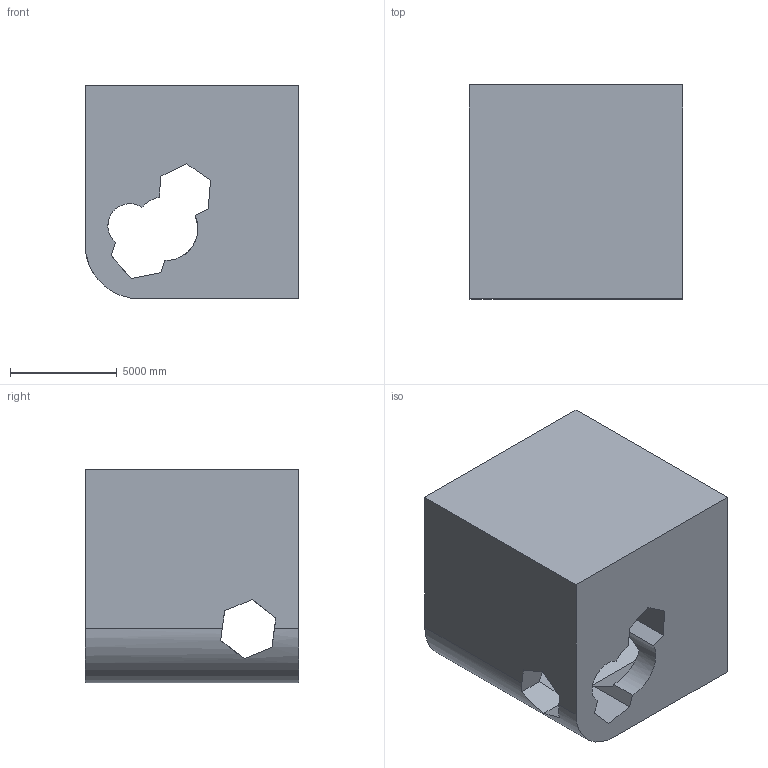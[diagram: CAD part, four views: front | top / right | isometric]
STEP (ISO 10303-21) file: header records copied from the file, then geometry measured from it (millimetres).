
FILE_DESCRIPTION (( 'STEP AP203' ), '1' );
FILE_NAME ('1599.STEP', '2022-08-18T16:03:48', ( 'user' ), ( '' ), 'SwSTEP 2.0', 'SolidWorks 2021', '' );
FILE_SCHEMA (( 'CONFIG_CONTROL_DESIGN' ));
Length unit declared in the file: centimetre
Products named in the file (1): 1599
Bounding box: 10000 x 10000 x 10000 mm (x, y, z)
Volume: 800204967854.1 mm3; surface area: 757006670.2 mm2
Topology: 1 solids, 1 shells, 34 faces, 105 edges, 70 vertices
Faces by surface type: plane 29, cylinder 5
Entity records: 1248 total; most frequent: CARTESIAN_POINT 249, ORIENTED_EDGE 210, DIRECTION 172, EDGE_CURVE 105, VECTOR 82, LINE 82, VERTEX_POINT 70, AXIS2_PLACEMENT_3D 45
